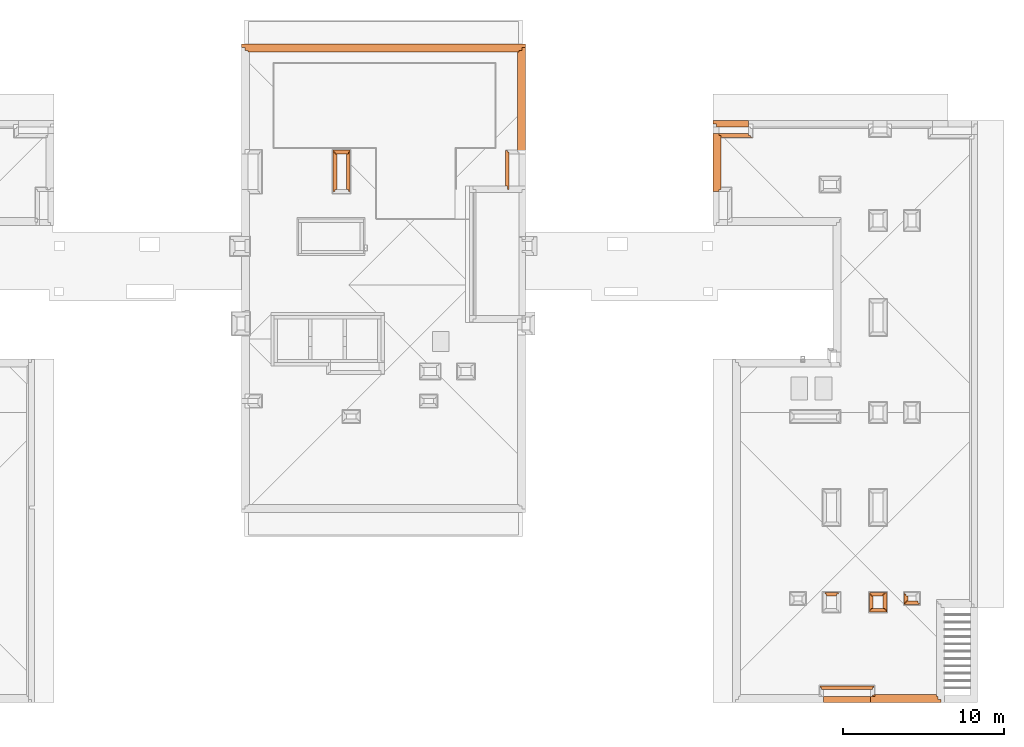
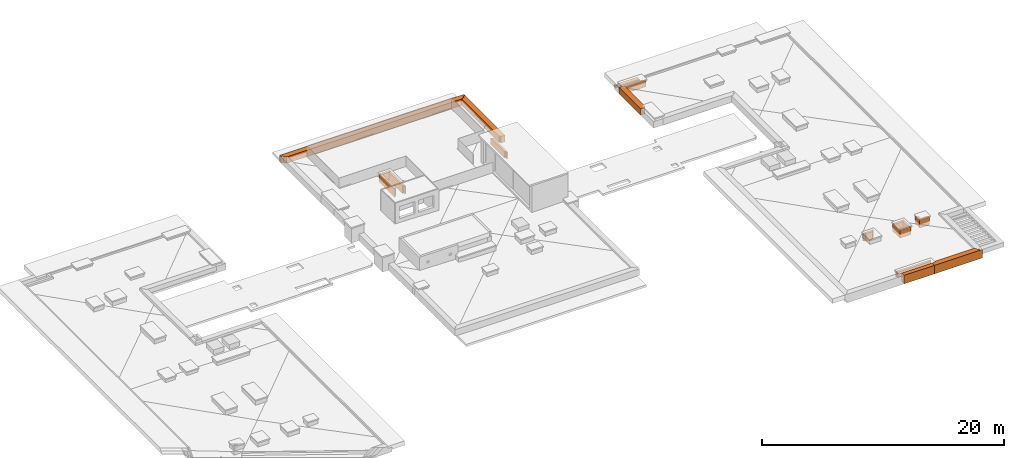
# One storey, part 13 of 16: 19 proxies.
"""IFC2X3 building model written with IfcOpenShell, lengths in millimetres."""

from ifc_helpers import new_model, entity, si_unit, converted_unit, derived_unit, money_unit, direction, frame, origin_with_axes, place, context, subcontext, project, spatial, faceted_brep, material, material_list, type_object, element, save


model = new_model("IFC2X3")

# Units and contexts
model_context = context("Model", 3, precision=0.01, world=origin_with_axes(), true_north=direction((0.34421633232, 0.938890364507)))
body_context = subcontext(model_context, "Body", "Model", "MODEL_VIEW")
ifc_project = project(units=[si_unit("LENGTHUNIT", "METRE", prefix="MILLI"), si_unit("AREAUNIT", "SQUARE_METRE"), si_unit("VOLUMEUNIT", "CUBIC_METRE"), converted_unit("PLANEANGLEUNIT", "DEGREE", entity("IfcPlaneAngleMeasure", 0.0174532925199), si_unit("PLANEANGLEUNIT", "RADIAN"), dimensions=[0, 0, 0, 0, 0, 0, 0]), si_unit("SOLIDANGLEUNIT", "STERADIAN"), money_unit("USD"), converted_unit("TIMEUNIT", "Year", entity("IfcTimeMeasure", 31556926.0), si_unit("TIMEUNIT", "SECOND"), dimensions=[0, 0, 1, 0, 0, 0, 0]), si_unit("MASSUNIT", "GRAM", prefix="KILO"), si_unit("THERMODYNAMICTEMPERATUREUNIT", "DEGREE_CELSIUS"), si_unit("LUMINOUSINTENSITYUNIT", "LUMEN"), si_unit("ENERGYUNIT", "JOULE", prefix="MEGA"), derived_unit("THERMALCONDUCTANCEUNIT", [(si_unit("POWERUNIT", "WATT"), 1), (si_unit("LENGTHUNIT", "METRE"), -1), (si_unit("THERMODYNAMICTEMPERATUREUNIT", "KELVIN"), -1)]), derived_unit("SPECIFICHEATCAPACITYUNIT", [(si_unit("ENERGYUNIT", "JOULE"), 1), (si_unit("MASSUNIT", "GRAM", prefix="KILO"), -1), (si_unit("THERMODYNAMICTEMPERATUREUNIT", "KELVIN"), -1)]), derived_unit("MASSDENSITYUNIT", [(si_unit("MASSUNIT", "GRAM", prefix="KILO"), 1), (si_unit("VOLUMEUNIT", "CUBIC_METRE"), -1)])], contexts=[model_context])

# Site, building, storey
site_placement = place(None, origin_with_axes())
site = spatial("IfcSite", under=ifc_project, at=site_placement, Name="USTRONIE MORSKIE", CompositionType="ELEMENT")
building_placement = place(site_placement, origin_with_axes())
building = spatial("IfcBuilding", under=site, at=building_placement, Name="Budynek", CompositionType="ELEMENT")
storey_placement = place(building_placement, frame((0.0, 0.0, 19000.0), z_axis=(0.0, 0.0, 1.0), x_axis=(1.0, 0.0, 0.0)))
storey = spatial("IfcBuildingStorey", under=building, at=storey_placement, Name="DACH", CompositionType="ELEMENT", Elevation=19000.0)

# Proxies
ifc_material_1 = material(Name="Tynk zewnętrzny")
ifc_material_2 = material(Name="Wełna ELEW")
ifc_material_3 = material(Name="Bloczki silikatowe")
ifc_material_list_1 = material_list([ifc_material_1, ifc_material_2, ifc_material_3, ifc_material_2, ifc_material_1])
building_element_proxy_type_1 = type_object("IfcBuildingElementProxyType", Name="18 SILIKAT+20-10 500", PredefinedType="NOTDEFINED")
proxy_1_placement = place(storey_placement, frame((379217.920919, 749551.199036, -160.0), z_axis=(0.0, 0.0, 1.0), x_axis=(1.0, 0.0, 0.0)))
element("IfcBuildingElementProxy", 1, at=proxy_1_placement, inside=storey, type_object=building_element_proxy_type_1, material=ifc_material_list_1, Name="Œciana-006", context=body_context, shape_type="Brep", body=[
    faceted_brep([(17410.0, 200.0, 660.0), (17410.0, 210.0, 660.0), (-210.0, 210.0, 660.0), (-210.0, 200.0, 660.0), (17410.0, 200.0, 0.0), (17410.0, 210.0, 0.0), (-210.0, 210.0, 0.0), (-210.0, 200.0, 0.0)], [[[0, 1, 2, 3]], [[1, 0, 4, 5]], [[1, 5, 6, 2]], [[7, 3, 2, 6]], [[4, 0, 3, 7]], [[5, 4, 7, 6]]]),
    faceted_brep([(17400.0, 0.0, 660.0), (17400.0, 200.0, 660.0), (-200.0, 200.0, 660.0), (-200.0, 0.0, 660.0), (17400.0, 0.0, 0.0), (17400.0, 200.0, 0.0), (-200.0, 200.0, 0.0), (-200.0, 0.0, 0.0)], [[[0, 1, 2, 3]], [[1, 0, 4, 5]], [[1, 5, 6, 2]], [[7, 3, 2, 6]], [[4, 0, 3, 7]], [[5, 4, 7, 6]]]),
    faceted_brep([(17200.0, -180.0, 660.0), (17200.0, 0.0, 660.0), (0.0, 0.0, 660.0), (0.0, -180.0, 660.0), (17200.0, -180.0, 0.0), (17200.0, 0.0, 0.0), (0.0, 0.0, 0.0), (0.0, -180.0, 0.0)], [[[0, 1, 2, 3]], [[1, 0, 4, 5]], [[1, 5, 6, 2]], [[7, 3, 2, 6]], [[4, 0, 3, 7]], [[5, 4, 7, 6]]]),
    faceted_brep([(17020.0, -280.0, 660.0), (17020.0, -280.0, 5.0), (17020.0, -180.0, 5.0), (17020.0, -180.0, 660.0), (180.0, -280.0, 660.0), (180.0, -280.0, 5.0), (180.0, -180.0, 5.0), (180.0, -180.0, 660.0)], [[[0, 1, 2, 3]], [[4, 5, 1, 0]], [[5, 6, 2, 1]], [[3, 2, 6, 7]], [[4, 0, 3, 7]], [[7, 6, 5, 4]]]),
    faceted_brep([(16920.0, -290.0, 533.11199114), (16920.0, -279.999962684, 533.311991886), (16920.0, -280.0, 660.0), (16920.0, -290.0, 660.0), (280.0, -279.999962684, 533.311991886), (280.0, -290.0, 533.11199114), (280.0, -280.0, 660.0), (280.0, -290.0, 660.0)], [[[0, 1, 2, 3]], [[4, 1, 0, 5]], [[1, 4, 6, 2]], [[7, 3, 2, 6]], [[5, 0, 3, 7]], [[4, 5, 7, 6]]]),
])
proxy_2_placement = place(storey_placement, frame((396417.920919, 749551.199036, -160.0), z_axis=(0.0, 0.0, 1.0), x_axis=(0.0, -1.0, 0.0)))
element("IfcBuildingElementProxy", 2, at=proxy_2_placement, inside=storey, type_object=building_element_proxy_type_1, material=ifc_material_list_1, Name="Œciana-006", context=body_context, shape_type="Brep", body=[
    faceted_brep([(-200.0, 210.0, 660.0), (-200.0, 200.0, 660.0), (6609.72243682, 200.0, 660.0), (6609.72243682, 210.0, 660.0), (-200.0, 210.0, 0.0), (-200.0, 200.0, 0.0), (6609.72243682, 200.0, 0.0), (6609.72243682, 210.0, 0.0)], [[[0, 1, 2, 3]], [[1, 0, 4, 5]], [[1, 5, 6, 2]], [[7, 3, 2, 6]], [[4, 0, 3, 7]], [[5, 4, 7, 6]]]),
    faceted_brep([(0.0, 200.0, 660.0), (0.0, 0.0, 660.0), (6609.72243682, 0.0, 660.0), (6609.72243682, 200.0, 660.0), (0.0, 200.0, 0.0), (0.0, 0.0, 0.0), (6609.72243682, 0.0, 0.0), (6609.72243682, 200.0, 0.0)], [[[0, 1, 2, 3]], [[1, 0, 4, 5]], [[1, 5, 6, 2]], [[7, 3, 2, 6]], [[4, 0, 3, 7]], [[5, 4, 7, 6]]]),
    faceted_brep([(6609.72243682, 0.0, 660.0), (180.0, 0.0, 660.0), (180.0, -180.0, 660.0), (6609.72243682, -180.0, 660.0), (6609.72243682, 0.0, 0.0), (180.0, 0.0, 0.0), (180.0, -180.0, 0.0), (6609.72243682, -180.0, 0.0)], [[[0, 1, 2, 3]], [[4, 5, 1, 0]], [[6, 2, 1, 5]], [[3, 2, 6, 7]], [[7, 4, 0, 3]], [[7, 6, 5, 4]]]),
    faceted_brep([(280.0, -180.0, 660.0), (6489.72243682, -180.0, 660.0), (6489.72243682, -180.0, 5.0), (280.0, -180.0, 5.0), (280.0, -280.0, 660.0), (6489.72243682, -280.0, 660.0), (6489.72243682, -280.0, 5.0), (280.0, -280.0, 5.0)], [[[0, 1, 2, 3]], [[1, 0, 4, 5]], [[1, 5, 6, 2]], [[2, 6, 7, 3]], [[4, 0, 3, 7]], [[5, 4, 7, 6]]]),
    faceted_brep([(6389.72243682, -280.0, 453.711986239), (4260.00018456, -280.0, 453.711986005), (290.0, -280.0, 533.11199114), (290.0, -280.0, 660.0), (6389.72243682, -280.0, 660.0), (4270.00026417, -290.000079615, 453.511984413), (6389.72243682, -290.0, 453.511986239), (290.0, -290.0, 533.11199114), (290.0, -290.0, 660.0), (6389.72243682, -290.0, 660.0)], [[[0, 1, 2, 3, 4]], [[5, 1, 0, 6]], [[1, 5, 7, 2]], [[3, 2, 7, 8]], [[4, 3, 8, 9]], [[6, 0, 4, 9]], [[5, 6, 9, 8, 7]]]),
])
proxy_3_placement = place(storey_placement, frame((408467.920919, 744201.198996, -160.0), z_axis=(0.0, 0.0, 1.0), x_axis=(0.0, -1.0, 0.0)))
element("IfcBuildingElementProxy", 3, at=proxy_3_placement, inside=storey, type_object=building_element_proxy_type_1, material=ifc_material_list_1, Name="Œciana-006", context=body_context, shape_type="Brep", body=[
    faceted_brep([(3360.01951986, 290.0, 5.0), (219.999959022, 290.0, 5.0), (219.999959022, 290.0, 660.0), (3360.01951986, 290.0, 660.0), (219.999959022, 280.0, 5.0), (3360.01951986, 280.0, 5.0), (219.999959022, 280.0, 660.0), (3360.01951986, 280.0, 660.0)], [[[0, 1, 2, 3]], [[4, 1, 0, 5]], [[1, 4, 6, 2]], [[6, 7, 3, 2]], [[5, 0, 3, 7]], [[4, 5, 7, 6]]]),
    faceted_brep([(3460.01951986, 280.0, 5.0), (119.999959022, 280.0, 5.0), (119.999959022, 280.0, 660.0), (3460.01951986, 280.0, 660.0), (119.999959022, 180.0, 5.0), (3460.01951986, 180.0, 5.0), (119.999959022, 180.0, 660.0), (3460.01951986, 180.0, 660.0)], [[[0, 1, 2, 3]], [[4, 1, 0, 5]], [[1, 4, 6, 2]], [[6, 7, 3, 2]], [[5, 0, 3, 7]], [[4, 5, 7, 6]]]),
    faceted_brep([(3580.01951986, 0.0, 0.0), (0.0, 0.0, 0.0), (0.0, 180.0, 0.0), (3580.01951986, 180.0, 0.0), (3580.01951986, 0.0, 660.0), (0.0, 0.0, 660.0), (0.0, 180.0, 660.0), (3580.01951986, 180.0, 660.0)], [[[0, 1, 2, 3]], [[4, 5, 1, 0]], [[1, 5, 6, 2]], [[3, 2, 6, 7]], [[7, 4, 0, 3]], [[7, 6, 5, 4]]]),
    faceted_brep([(0.0, -200.0, 0.0), (0.0, 0.0, 0.0), (3580.01951986, 0.0, 0.0), (3580.01951986, -200.0, 0.0), (0.0, -200.0, 660.0), (0.0, 0.0, 660.0), (3580.01951986, 0.0, 660.0), (3580.01951986, -200.0, 660.0)], [[[0, 1, 2, 3]], [[4, 5, 1, 0]], [[1, 5, 6, 2]], [[7, 3, 2, 6]], [[4, 0, 3, 7]], [[5, 4, 7, 6]]]),
    faceted_brep([(0.0, -200.0, 0.0), (3580.01951986, -200.0, 0.0), (3580.01951986, -210.0, 0.0), (0.0, -210.0, 0.0), (0.0, -200.0, 660.0), (3580.01951986, -200.0, 660.0), (3580.01951986, -210.0, 660.0), (0.0, -210.0, 660.0)], [[[0, 1, 2, 3]], [[4, 5, 1, 0]], [[2, 1, 5, 6]], [[3, 2, 6, 7]], [[4, 0, 3, 7]], [[7, 6, 5, 4]]]),
])
proxy_4_placement = place(storey_placement, frame((422417.920919, 709101.199036, -360.0), z_axis=(0.0, 0.0, 1.0), x_axis=(-1.0, 0.0, 0.0)))
element("IfcBuildingElementProxy", 4, at=proxy_4_placement, inside=storey, type_object=building_element_proxy_type_1, material=ifc_material_list_1, Name="Œciana-006", context=body_context, shape_type="Brep", body=[
    faceted_brep([(-200.0, 210.0, 860.0), (-200.0, 200.0, 860.0), (4380.0, 200.0, 860.0), (4380.0, 210.0, 860.0), (-200.0, 210.0, 0.0), (-200.0, 200.0, 0.0), (4380.0, 200.0, 0.0), (4380.0, 210.0, 0.0)], [[[0, 1, 2, 3]], [[1, 0, 4, 5]], [[1, 5, 6, 2]], [[7, 3, 2, 6]], [[4, 0, 3, 7]], [[5, 4, 7, 6]]]),
    faceted_brep([(0.0, 200.0, 860.0), (0.0, 0.0, 860.0), (4380.0, 0.0, 860.0), (4380.0, 200.0, 860.0), (0.0, 200.0, 0.0), (0.0, 0.0, 0.0), (4380.0, 0.0, 0.0), (4380.0, 200.0, 0.0)], [[[0, 1, 2, 3]], [[1, 0, 4, 5]], [[1, 5, 6, 2]], [[7, 3, 2, 6]], [[4, 0, 3, 7]], [[5, 4, 7, 6]]]),
    faceted_brep([(180.0, 0.0, 200.0), (180.0, -180.0, 200.0), (180.0, -180.0, 860.0), (180.0, 0.0, 860.0), (4380.0, -180.0, 200.0), (4380.0, 0.0, 200.0), (4380.0, -180.0, 860.0), (4380.0, 0.0, 860.0)], [[[0, 1, 2, 3]], [[4, 1, 0, 5]], [[1, 4, 6, 2]], [[7, 3, 2, 6]], [[5, 0, 3, 7]], [[4, 5, 7, 6]]]),
    faceted_brep([(280.0, -180.0, 205.0), (280.0, -280.0, 205.0), (280.0, -280.0, 860.0), (280.0, -180.0, 860.0), (4260.0, -280.0, 205.0), (4260.0, -180.0, 205.0), (4260.0, -280.0, 740.0), (4100.00158398, -280.0, 740.0), (4100.00158398, -280.0, 860.0), (4100.00158398, -180.0, 860.0), (4100.00158398, -180.0, 740.0), (4260.0, -180.0, 740.0)], [[[0, 1, 2, 3]], [[4, 1, 0, 5]], [[1, 4, 6, 7, 8, 2]], [[8, 9, 3, 2]], [[5, 0, 3, 9, 10, 11]], [[4, 5, 11, 6]], [[7, 6, 11, 10]], [[9, 8, 7, 10]]]),
    faceted_brep([(290.0, -280.0, 205.0), (290.0, -290.0, 205.0), (290.0, -290.0, 860.0), (290.0, -280.0, 860.0), (4160.0, -290.0, 205.0), (4160.0, -280.0, 205.0), (4160.0, -290.0, 740.0), (4100.00158398, -290.0, 740.0), (4100.00158398, -290.0, 860.0), (4100.00158398, -280.0, 860.0), (4100.00158398, -280.0, 740.0), (4160.0, -280.0, 740.0)], [[[0, 1, 2, 3]], [[4, 1, 0, 5]], [[1, 4, 6, 7, 8, 2]], [[8, 9, 3, 2]], [[5, 0, 3, 9, 10, 11]], [[4, 5, 11, 6]], [[7, 6, 11, 10]], [[9, 8, 7, 10]]]),
])
ifc_material_list_2 = material_list([ifc_material_1, ifc_material_2, ifc_material_3])
building_element_proxy_type_2 = type_object("IfcBuildingElementProxyType", Name="12+10 kominy 230", PredefinedType="NOTDEFINED")
proxy_5_placement = place(storey_placement, frame((385517.924326, 742941.199021, -159.999998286), z_axis=(0.0, 0.0, 1.0), x_axis=(0.0, -1.0, 0.0)))
element("IfcBuildingElementProxy", 5, at=proxy_5_placement, inside=storey, type_object=building_element_proxy_type_2, material=ifc_material_list_2, Name="Œciana-006", context=body_context, shape_type="Brep", body=[
    faceted_brep([(-220.0, 230.0, 4.99999828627), (-220.0, 230.0, 800.0), (2439.99998521, 230.0, 800.0), (2439.99998521, 230.0, 4.99999828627), (-220.0, 220.0, 4.99999828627), (-220.0, 220.0, 800.0), (2439.99998521, 220.0, 800.0), (2439.99998521, 220.0, 4.99999828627)], [[[0, 1, 2, 3]], [[0, 4, 5, 1]], [[6, 2, 1, 5]], [[7, 3, 2, 6]], [[7, 4, 0, 3]], [[7, 6, 5, 4]]]),
    faceted_brep([(-120.0, 220.0, 4.99999828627), (-120.0, 220.0, 800.0), (2339.99998521, 220.0, 800.0), (2339.99998521, 220.0, 4.99999828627), (-120.0, 120.0, 4.99999828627), (-120.0, 120.0, 800.0), (2339.99998521, 120.0, 800.0), (2339.99998521, 120.0, 4.99999828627)], [[[0, 1, 2, 3]], [[0, 4, 5, 1]], [[6, 2, 1, 5]], [[7, 3, 2, 6]], [[7, 4, 0, 3]], [[7, 6, 5, 4]]]),
    faceted_brep([(2219.99998521, 0.0, 800.0), (2219.99998521, 120.0, 800.0), (0.0, 120.0, 800.0), (0.0, 0.0, 800.0), (2219.99998521, 0.0, 0.0), (2219.99998521, 120.0, 0.0), (0.0, 120.0, 0.0), (0.0, 0.0, 0.0)], [[[0, 1, 2, 3]], [[1, 0, 4, 5]], [[1, 5, 6, 2]], [[7, 3, 2, 6]], [[4, 0, 3, 7]], [[5, 4, 7, 6]]]),
])
ifc_material_list_3 = material_list([ifc_material_3, ifc_material_2, ifc_material_1])
proxy_6_placement = place(storey_placement, frame((418037.920919, 709701.199036, -160.0), z_axis=(0.0, 0.0, 1.0), x_axis=(-1.0, 0.0, 0.0)))
element("IfcBuildingElementProxy", 6, at=proxy_6_placement, inside=storey, type_object=building_element_proxy_type_2, material=ifc_material_list_3, Name="Œciana-006", context=body_context, shape_type="Brep", body=[
    faceted_brep([(3039.99841602, 0.0, 0.0), (3039.99841602, -120.0, 0.0), (-120.0, -120.0, 0.0), (-120.0, 0.0, 0.0), (3039.99841602, 0.0, 540.0), (3039.99841602, -120.0, 540.0), (-120.0, -120.0, 540.0), (-120.0, 0.0, 540.0)], [[[0, 1, 2, 3]], [[1, 0, 4, 5]], [[1, 5, 6, 2]], [[7, 3, 2, 6]], [[4, 0, 3, 7]], [[5, 4, 7, 6]]]),
    faceted_brep([(-220.0, -120.0, 5.0), (-220.0, -220.0, 5.0), (-220.0, -220.0, 540.0), (-220.0, -120.0, 540.0), (3139.99841602, -220.0, 5.0), (3139.99841602, -120.0, 5.0), (3139.99841602, -220.0, 540.0), (3139.99841602, -120.0, 540.0)], [[[0, 1, 2, 3]], [[4, 1, 0, 5]], [[1, 4, 6, 2]], [[6, 7, 3, 2]], [[5, 0, 3, 7]], [[4, 5, 7, 6]]]),
    faceted_brep([(-230.0, -220.0, 5.0), (-230.0, -230.0, 5.0), (-230.0, -230.0, 540.0), (-230.0, -220.0, 540.0), (3149.99841602, -230.0, 5.0), (3149.99841602, -220.0, 5.0), (3149.99841602, -230.0, 540.0), (3149.99841602, -220.0, 540.0)], [[[0, 1, 2, 3]], [[4, 1, 0, 5]], [[1, 4, 6, 2]], [[6, 7, 3, 2]], [[5, 0, 3, 7]], [[4, 5, 7, 6]]]),
])
proxy_7_placement = place(storey_placement, frame((395617.909817, 740641.199036, -159.999998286), z_axis=(0.0, 0.0, 1.0), x_axis=(0.0, 1.0, 0.0)))
element("IfcBuildingElementProxy", 7, at=proxy_7_placement, inside=storey, type_object=building_element_proxy_type_2, material=ifc_material_list_2, Name="Œciana-006", context=body_context, shape_type="Brep", body=[
    faceted_brep([(979.990623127, 220.0, 4.99999828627), (1850.00090117, 220.0, 4.99999828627), (2530.27756318, 220.0, 4.99999828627), (2530.27756318, 220.0, 659.999998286), (310.0, 220.0, 659.999998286), (310.0, 220.0, 4.99999828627), (1850.00090117, 230.0, 4.99999828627), (979.990623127, 230.0, 4.99999828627), (2530.27756318, 230.0, 4.99999828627), (2530.27756318, 230.0, 659.999998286), (310.0, 230.0, 659.999998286), (310.0, 230.0, 4.99999828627)], [[[0, 1, 2, 3, 4, 5]], [[6, 1, 0, 7]], [[1, 6, 8, 2]], [[2, 8, 9, 3]], [[3, 9, 10, 4]], [[11, 5, 4, 10]], [[7, 0, 5, 11]], [[6, 7, 11, 10, 9, 8]]]),
    faceted_brep([(2520.27756318, 120.0, 4.99999828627), (2520.27756318, 120.0, 659.999998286), (300.0, 120.0, 659.999998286), (300.0, 120.0, 4.99999828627), (2520.27756318, 220.0, 4.99999828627), (2520.27756318, 220.0, 659.999998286), (300.0, 220.0, 659.999998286), (300.0, 220.0, 4.99999828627)], [[[0, 1, 2, 3]], [[0, 4, 5, 1]], [[1, 5, 6, 2]], [[7, 3, 2, 6]], [[7, 4, 0, 3]], [[7, 6, 5, 4]]]),
    faceted_brep([(2420.27756318, 0.0, 659.999998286), (2420.27756318, 120.0, 659.999998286), (100.0, 120.0, 659.999998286), (100.0, 0.0, 659.999998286), (2420.27756318, 0.0, 0.0), (2420.27756318, 120.0, 0.0), (100.0, 120.0, 0.0), (100.0, 0.0, 0.0)], [[[0, 1, 2, 3]], [[1, 0, 4, 5]], [[1, 5, 6, 2]], [[7, 3, 2, 6]], [[4, 0, 3, 7]], [[5, 4, 7, 6]]]),
])
proxy_8_placement = place(storey_placement, frame((418817.920919, 714751.197058, -160.0), z_axis=(0.0, 0.0, 1.0), x_axis=(0.0, 1.0, 0.0)))
element("IfcBuildingElementProxy", 8, at=proxy_8_placement, inside=storey, type_object=building_element_proxy_type_2, material=ifc_material_list_3, Name="Œciana-006", context=body_context, shape_type="Brep", body=[
    faceted_brep([(870.00242246, 0.0, 0.0), (870.00242246, -120.0, 0.0), (0.0, -120.0, 0.0), (0.0, 0.0, 0.0), (870.00242246, 0.0, 800.000001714), (870.00242246, -120.0, 800.000001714), (0.0, -120.0, 800.000001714), (0.0, 0.0, 800.000001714)], [[[0, 1, 2, 3]], [[1, 0, 4, 5]], [[1, 5, 6, 2]], [[7, 3, 2, 6]], [[4, 0, 3, 7]], [[5, 4, 7, 6]]]),
    faceted_brep([(-120.0, -220.0, 5.0), (970.00242246, -220.0, 5.0), (970.00242246, -220.0, 800.000001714), (-120.0, -220.0, 800.000001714), (970.00242246, -120.0, 5.0), (-120.0, -120.0, 5.0), (970.00242246, -120.0, 800.000001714), (-120.0, -120.0, 800.000001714)], [[[0, 1, 2, 3]], [[4, 1, 0, 5]], [[1, 4, 6, 2]], [[2, 6, 7, 3]], [[5, 0, 3, 7]], [[4, 5, 7, 6]]]),
    faceted_brep([(-220.0, -230.0, 5.0), (980.00242246, -230.0, 5.0), (980.00242246, -230.0, 800.000001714), (-220.0, -230.0, 800.000001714), (980.00242246, -220.0, 5.0), (-220.0, -220.0, 5.0), (980.00242246, -220.0, 800.000001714), (-220.0, -220.0, 800.000001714)], [[[0, 1, 2, 3]], [[4, 1, 0, 5]], [[1, 4, 6, 2]], [[2, 6, 7, 3]], [[5, 0, 3, 7]], [[4, 5, 7, 6]]]),
])
proxy_9_placement = place(storey_placement, frame((420357.920919, 715501.199024, -160.0), z_axis=(0.0, 0.0, 1.0), x_axis=(0.0, -1.0, 0.0)))
element("IfcBuildingElementProxy", 9, at=proxy_9_placement, inside=storey, type_object=building_element_proxy_type_2, material=ifc_material_list_3, Name="Œciana-006", context=body_context, shape_type="Brep", body=[
    faceted_brep([(300.006452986, 0.0, 0.0), (300.006452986, -120.0, 0.0), (0.0, -120.0, 0.0), (0.0, 0.0, 0.0), (300.006452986, 0.0, 800.000001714), (300.006452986, -120.0, 800.000001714), (0.0, -120.0, 800.000001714), (0.0, 0.0, 800.000001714)], [[[0, 1, 2, 3]], [[1, 0, 4, 5]], [[1, 5, 6, 2]], [[7, 3, 2, 6]], [[4, 0, 3, 7]], [[5, 4, 7, 6]]]),
    faceted_brep([(420.006452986, -120.0, 5.0), (-120.0, -120.0, 5.0), (-120.0, -120.0, 800.000001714), (420.006452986, -120.0, 800.000001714), (-120.0, -220.0, 5.0), (420.006452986, -220.0, 5.0), (-120.0, -220.0, 800.000001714), (420.006452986, -220.0, 800.000001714)], [[[0, 1, 2, 3]], [[4, 1, 0, 5]], [[1, 4, 6, 2]], [[7, 3, 2, 6]], [[5, 0, 3, 7]], [[4, 5, 7, 6]]]),
    faceted_brep([(520.006452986, -220.0, 5.0), (-220.0, -220.0, 5.0), (-220.0, -220.0, 800.000001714), (520.006452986, -220.0, 800.000001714), (-220.0, -230.0, 5.0), (520.006452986, -230.0, 5.0), (-220.0, -230.0, 800.000001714), (520.006452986, -230.0, 800.000001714)], [[[0, 1, 2, 3]], [[4, 1, 0, 5]], [[1, 4, 6, 2]], [[7, 3, 2, 6]], [[5, 0, 3, 7]], [[4, 5, 7, 6]]]),
])
proxy_10_placement = place(storey_placement, frame((384917.920919, 742941.199021, -159.999998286), z_axis=(0.0, 0.0, 1.0), x_axis=(0.0, -1.0, 0.0)))
element("IfcBuildingElementProxy", 10, at=proxy_10_placement, inside=storey, type_object=building_element_proxy_type_2, material=ifc_material_list_3, Name="Œciana-006", context=body_context, shape_type="Brep", body=[
    faceted_brep([(2219.99998521, 0.0, 0.0), (2219.99998521, -120.0, 0.0), (0.0, -120.0, 0.0), (0.0, 0.0, 0.0), (2219.99998521, 0.0, 800.0), (2219.99998521, -120.0, 800.0), (0.0, -120.0, 800.0), (0.0, 0.0, 800.0)], [[[0, 1, 2, 3]], [[1, 0, 4, 5]], [[1, 5, 6, 2]], [[7, 3, 2, 6]], [[4, 0, 3, 7]], [[5, 4, 7, 6]]]),
    faceted_brep([(-120.0, -120.0, 4.99999828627), (-120.0, -120.0, 800.0), (2339.99998521, -120.0, 800.0), (2339.99998521, -120.0, 4.99999828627), (-120.0, -220.0, 4.99999828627), (-120.0, -220.0, 800.0), (2339.99998521, -220.0, 800.0), (2339.99998521, -220.0, 4.99999828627)], [[[0, 1, 2, 3]], [[0, 4, 5, 1]], [[6, 2, 1, 5]], [[7, 3, 2, 6]], [[7, 4, 0, 3]], [[7, 6, 5, 4]]]),
    faceted_brep([(-220.0, -220.0, 4.99999828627), (-220.0, -220.0, 800.0), (2439.99998521, -220.0, 800.0), (2439.99998521, -220.0, 4.99999828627), (-220.0, -230.0, 4.99999828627), (-220.0, -230.0, 800.0), (2439.99998521, -230.0, 800.0), (2439.99998521, -230.0, 4.99999828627)], [[[0, 1, 2, 3]], [[0, 4, 5, 1]], [[6, 2, 1, 5]], [[7, 3, 2, 6]], [[7, 4, 0, 3]], [[7, 6, 5, 4]]]),
])
proxy_11_placement = place(storey_placement, frame((418197.920919, 714751.197058, -160.0), z_axis=(0.0, 0.0, 1.0), x_axis=(1.0, 0.0, 0.0)))
element("IfcBuildingElementProxy", 11, at=proxy_11_placement, inside=storey, type_object=building_element_proxy_type_2, material=ifc_material_list_3, Name="Œciana-006", context=body_context, shape_type="Brep", body=[
    faceted_brep([(740.0, 0.0, 0.0), (740.0, -120.0, 0.0), (-120.0, -120.0, 0.0), (-120.0, 0.0, 0.0), (740.0, 0.0, 800.000001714), (740.0, -120.0, 800.000001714), (-120.0, -120.0, 800.000001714), (-120.0, 0.0, 800.000001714)], [[[0, 1, 2, 3]], [[1, 0, 4, 5]], [[1, 5, 6, 2]], [[7, 3, 2, 6]], [[4, 0, 3, 7]], [[5, 4, 7, 6]]]),
    faceted_brep([(840.0, -220.0, 5.0), (840.0, -120.0, 5.0), (840.0, -120.0, 800.000001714), (840.0, -220.0, 800.000001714), (-220.0, -120.0, 5.0), (-220.0, -220.0, 5.0), (-220.0, -120.0, 800.000001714), (-220.0, -220.0, 800.000001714)], [[[0, 1, 2, 3]], [[4, 1, 0, 5]], [[1, 4, 6, 2]], [[3, 2, 6, 7]], [[5, 0, 3, 7]], [[4, 5, 7, 6]]]),
    faceted_brep([(850.0, -230.0, 5.0), (850.0, -220.0, 5.0), (850.0, -220.0, 800.000001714), (850.0, -230.0, 800.000001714), (-230.0, -220.0, 5.0), (-230.0, -230.0, 5.0), (-230.0, -220.0, 800.000001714), (-230.0, -230.0, 800.000001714)], [[[0, 1, 2, 3]], [[4, 1, 0, 5]], [[1, 4, 6, 2]], [[3, 2, 6, 7]], [[5, 0, 3, 7]], [[4, 5, 7, 6]]]),
])
proxy_12_placement = place(storey_placement, frame((410477.940098, 744201.199037, -160.0), z_axis=(0.0, 0.0, 1.0), x_axis=(-1.0, 0.0, 0.0)))
element("IfcBuildingElementProxy", 12, at=proxy_12_placement, inside=storey, type_object=building_element_proxy_type_2, material=ifc_material_list_2, Name="Œciana-006", context=body_context, shape_type="Brep", body=[
    faceted_brep([(-220.000004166, 230.0, 5.0), (-220.000003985, 220.0, 5.0), (-220.000003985, 220.0, 660.0), (-220.000004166, 230.0, 660.0), (1720.01917869, 220.0, 5.0), (1720.01917869, 230.0, 5.0), (1720.01917869, 220.0, 660.0), (1720.01917869, 230.0, 660.0)], [[[0, 1, 2, 3]], [[4, 1, 0, 5]], [[1, 4, 6, 2]], [[2, 6, 7, 3]], [[5, 0, 3, 7]], [[4, 5, 7, 6]]]),
    faceted_brep([(-120.000003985, 220.0, 5.0), (-120.000002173, 120.0, 5.0), (-120.000002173, 120.0, 660.0), (-120.000003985, 220.0, 660.0), (1730.01917869, 120.0, 5.0), (1730.01917869, 220.0, 5.0), (1730.01917869, 120.0, 660.0), (1730.01917869, 220.0, 660.0)], [[[0, 1, 2, 3]], [[4, 1, 0, 5]], [[1, 4, 6, 2]], [[2, 6, 7, 3]], [[5, 0, 3, 7]], [[4, 5, 7, 6]]]),
    faceted_brep([(0.0, 0.0, 0.0), (1830.01917869, 4.09780795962e-05, 0.0), (1830.01917869, 4.09780795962e-05, 660.0), (0.0, 0.0, 660.0), (-2.17340812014e-06, 120.0, 0.0), (1830.01917869, 120.0, 0.0), (1830.01917869, 120.0, 660.0), (-2.17340812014e-06, 120.0, 660.0)], [[[0, 1, 2, 3]], [[4, 5, 1, 0]], [[5, 6, 2, 1]], [[3, 2, 6, 7]], [[4, 0, 3, 7]], [[7, 6, 5, 4]]]),
])
proxy_13_placement = place(storey_placement, frame((418817.920919, 715501.199481, -160.0), z_axis=(0.0, 0.0, 1.0), x_axis=(-1.0, 0.0, 0.0)))
element("IfcBuildingElementProxy", 13, at=proxy_13_placement, inside=storey, type_object=building_element_proxy_type_2, material=ifc_material_list_3, Name="Œciana-006", context=body_context, shape_type="Brep", body=[
    faceted_brep([(740.0, 0.0, 0.0), (740.0, -120.0, 0.0), (0.0, -120.0, 0.0), (0.0, 0.0, 0.0), (740.0, 0.0, 800.000001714), (740.0, -120.0, 800.000001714), (0.0, -120.0, 800.000001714), (0.0, 0.0, 800.000001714)], [[[0, 1, 2, 3]], [[1, 0, 4, 5]], [[1, 5, 6, 2]], [[7, 3, 2, 6]], [[4, 0, 3, 7]], [[5, 4, 7, 6]]]),
    faceted_brep([(-120.0, -120.0, 5.0), (-120.0, -220.0, 5.0), (-120.0, -220.0, 800.000001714), (-120.0, -120.0, 800.000001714), (840.0, -220.0, 5.0), (840.0, -120.0, 5.0), (840.0, -220.0, 800.000001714), (840.0, -120.0, 800.000001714)], [[[0, 1, 2, 3]], [[4, 1, 0, 5]], [[1, 4, 6, 2]], [[6, 7, 3, 2]], [[5, 0, 3, 7]], [[4, 5, 7, 6]]]),
    faceted_brep([(-220.0, -220.0, 5.0), (-220.0, -230.0, 5.0), (-220.0, -230.0, 800.000001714), (-220.0, -220.0, 800.000001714), (850.0, -230.0, 5.0), (850.0, -220.0, 5.0), (850.0, -230.0, 800.000001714), (850.0, -220.0, 800.000001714)], [[[0, 1, 2, 3]], [[4, 1, 0, 5]], [[1, 4, 6, 2]], [[6, 7, 3, 2]], [[5, 0, 3, 7]], [[4, 5, 7, 6]]]),
])
proxy_14_placement = place(storey_placement, frame((385517.924326, 742941.199021, -159.999998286), z_axis=(0.0, 0.0, 1.0), x_axis=(-1.0, 0.0, 0.0)))
element("IfcBuildingElementProxy", 14, at=proxy_14_placement, inside=storey, type_object=building_element_proxy_type_2, material=ifc_material_list_3, Name="Œciana-006", context=body_context, shape_type="Brep", body=[
    faceted_brep([(720.003407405, 0.0, 0.0), (720.003407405, -120.0, 0.0), (-120.0, -120.0, 0.0), (-120.0, 0.0, 0.0), (720.003407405, 0.0, 800.0), (720.003407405, -120.0, 800.0), (-120.0, -120.0, 800.0), (-120.0, 0.0, 800.0)], [[[0, 1, 2, 3]], [[1, 0, 4, 5]], [[1, 5, 6, 2]], [[7, 3, 2, 6]], [[4, 0, 3, 7]], [[5, 4, 7, 6]]]),
    faceted_brep([(-220.0, -120.0, 4.99999828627), (-220.0, -220.0, 4.99999828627), (-220.0, -220.0, 800.0), (-220.0, -120.0, 800.0), (820.003407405, -220.0, 4.99999828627), (820.003407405, -120.0, 4.99999828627), (820.003407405, -220.0, 800.0), (820.003407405, -120.0, 800.0)], [[[0, 1, 2, 3]], [[4, 1, 0, 5]], [[1, 4, 6, 2]], [[6, 7, 3, 2]], [[5, 0, 3, 7]], [[4, 5, 7, 6]]]),
    faceted_brep([(-230.0, -220.0, 4.99999828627), (-230.0, -230.0, 4.99999828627), (-230.0, -230.0, 800.0), (-230.0, -220.0, 800.0), (830.003407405, -230.0, 4.99999828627), (830.003407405, -220.0, 4.99999828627), (830.003407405, -230.0, 800.0), (830.003407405, -220.0, 800.0)], [[[0, 1, 2, 3]], [[4, 1, 0, 5]], [[1, 4, 6, 2]], [[6, 7, 3, 2]], [[5, 0, 3, 7]], [[4, 5, 7, 6]]]),
])
proxy_15_placement = place(storey_placement, frame((418197.920919, 715501.199481, -160.0), z_axis=(0.0, 0.0, 1.0), x_axis=(0.0, -1.0, 0.0)))
element("IfcBuildingElementProxy", 15, at=proxy_15_placement, inside=storey, type_object=building_element_proxy_type_2, material=ifc_material_list_3, Name="Œciana-006", context=body_context, shape_type="Brep", body=[
    faceted_brep([(750.00242246, 0.0, 0.0), (750.00242246, -120.0, 0.0), (0.0, -120.0, 0.0), (0.0, 0.0, 0.0), (750.00242246, 0.0, 800.000001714), (750.00242246, -120.0, 800.000001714), (0.0, -120.0, 800.000001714), (0.0, 0.0, 800.000001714)], [[[0, 1, 2, 3]], [[1, 0, 4, 5]], [[1, 5, 6, 2]], [[7, 3, 2, 6]], [[4, 0, 3, 7]], [[5, 4, 7, 6]]]),
    faceted_brep([(870.00242246, -120.0, 5.0), (-120.0, -120.0, 5.0), (-120.0, -120.0, 800.000001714), (870.00242246, -120.0, 800.000001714), (-120.0, -220.0, 5.0), (870.00242246, -220.0, 5.0), (-120.0, -220.0, 800.000001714), (870.00242246, -220.0, 800.000001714)], [[[0, 1, 2, 3]], [[4, 1, 0, 5]], [[1, 4, 6, 2]], [[7, 3, 2, 6]], [[5, 0, 3, 7]], [[4, 5, 7, 6]]]),
    faceted_brep([(970.00242246, -220.0, 5.0), (-220.0, -220.0, 5.0), (-220.0, -220.0, 800.000001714), (970.00242246, -220.0, 800.000001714), (-220.0, -230.0, 5.0), (970.00242246, -230.0, 5.0), (-220.0, -230.0, 800.000001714), (970.00242246, -230.0, 800.000001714)], [[[0, 1, 2, 3]], [[4, 1, 0, 5]], [[1, 4, 6, 2]], [[7, 3, 2, 6]], [[5, 0, 3, 7]], [[4, 5, 7, 6]]]),
])
proxy_16_placement = place(storey_placement, frame((420357.920919, 715201.192571, -160.0), z_axis=(0.0, 0.0, 1.0), x_axis=(1.0, 0.0, 0.0)))
element("IfcBuildingElementProxy", 16, at=proxy_16_placement, inside=storey, type_object=building_element_proxy_type_2, material=ifc_material_list_3, Name="Œciana-006", context=body_context, shape_type="Brep", body=[
    faceted_brep([(619.998416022, 0.0, 0.0), (619.998416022, -120.0, 0.0), (-120.0, -120.0, 0.0), (-120.0, 0.0, 0.0), (619.998416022, 0.0, 800.000001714), (619.998416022, -120.0, 800.000001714), (-120.0, -120.0, 800.000001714), (-120.0, 0.0, 800.000001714)], [[[0, 1, 2, 3]], [[1, 0, 4, 5]], [[1, 5, 6, 2]], [[7, 3, 2, 6]], [[4, 0, 3, 7]], [[5, 4, 7, 6]]]),
    faceted_brep([(719.998416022, -220.0, 5.0), (719.998416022, -120.0, 5.0), (719.998416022, -120.0, 800.000001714), (719.998416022, -220.0, 800.000001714), (-220.0, -120.0, 5.0), (-220.0, -220.0, 5.0), (-220.0, -120.0, 800.000001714), (-220.0, -220.0, 800.000001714)], [[[0, 1, 2, 3]], [[4, 1, 0, 5]], [[1, 4, 6, 2]], [[3, 2, 6, 7]], [[5, 0, 3, 7]], [[4, 5, 7, 6]]]),
    faceted_brep([(729.998416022, -230.0, 5.0), (729.998416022, -220.0, 5.0), (729.998416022, -220.0, 800.000001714), (729.998416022, -230.0, 800.000001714), (-230.0, -220.0, 5.0), (-230.0, -230.0, 5.0), (-230.0, -220.0, 800.000001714), (-230.0, -230.0, 800.000001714)], [[[0, 1, 2, 3]], [[4, 1, 0, 5]], [[1, 4, 6, 2]], [[3, 2, 6, 7]], [[5, 0, 3, 7]], [[4, 5, 7, 6]]]),
])
proxy_17_placement = place(storey_placement, frame((415317.920018, 715501.199481, -160.0), z_axis=(0.0, 0.0, 1.0), x_axis=(1.0, 0.0, 0.0)))
element("IfcBuildingElementProxy", 17, at=proxy_17_placement, inside=storey, type_object=building_element_proxy_type_2, material=ifc_material_list_2, Name="Œciana-006", context=body_context, shape_type="Brep", body=[
    faceted_brep([(839.999317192, 220.0, 5.0), (839.999317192, 230.0, 5.0), (839.999317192, 230.0, 800.000001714), (839.999317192, 220.0, 800.000001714), (-219.998416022, 230.0, 5.0), (-219.998416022, 220.0, 5.0), (-219.998416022, 230.0, 800.000001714), (-219.998416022, 220.0, 800.000001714)], [[[0, 1, 2, 3]], [[4, 1, 0, 5]], [[1, 4, 6, 2]], [[3, 2, 6, 7]], [[5, 0, 3, 7]], [[4, 5, 7, 6]]]),
    faceted_brep([(739.999317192, 120.0, 5.0), (739.999317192, 220.0, 5.0), (739.999317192, 220.0, 800.000001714), (739.999317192, 120.0, 800.000001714), (-119.998416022, 220.0, 5.0), (-119.998416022, 120.0, 5.0), (-119.998416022, 220.0, 800.000001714), (-119.998416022, 120.0, 800.000001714)], [[[0, 1, 2, 3]], [[4, 1, 0, 5]], [[1, 4, 6, 2]], [[3, 2, 6, 7]], [[5, 0, 3, 7]], [[4, 5, 7, 6]]]),
    faceted_brep([(619.999317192, 0.0, 800.000001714), (619.999317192, 120.0, 800.000001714), (0.00158397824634, 120.0, 800.000001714), (0.00158397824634, 0.0, 800.000001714), (619.999317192, 0.0, 0.0), (619.999317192, 120.0, 0.0), (0.00158397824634, 120.0, 0.0), (0.00158397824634, 0.0, 0.0)], [[[0, 1, 2, 3]], [[1, 0, 4, 5]], [[1, 5, 6, 2]], [[7, 3, 2, 6]], [[4, 0, 3, 7]], [[5, 4, 7, 6]]]),
])
building_element_proxy_type_3 = type_object("IfcBuildingElementProxyType", Name="18 SILIKAT+20 390", PredefinedType="NOTDEFINED")
proxy_18_placement = place(storey_placement, frame((418037.920919, 709101.199036, -360.0), z_axis=(0.0, 0.0, 1.0), x_axis=(-1.0, 0.0, 0.0)))
element("IfcBuildingElementProxy", 18, at=proxy_18_placement, inside=storey, type_object=building_element_proxy_type_3, material=ifc_material_list_2, Name="Œciana-006", context=body_context, shape_type="Brep", body=[
    faceted_brep([(0.0, 200.0, 860.0), (2919.99841602, 200.0, 860.0), (2919.99841602, 210.0, 860.0), (0.0, 210.0, 860.0), (0.0, 200.0, 0.0), (2919.99841602, 200.0, 0.0), (2919.99841602, 210.0, 0.0), (0.0, 210.0, 0.0)], [[[0, 1, 2, 3]], [[4, 5, 1, 0]], [[2, 1, 5, 6]], [[3, 2, 6, 7]], [[4, 0, 3, 7]], [[7, 6, 5, 4]]]),
    faceted_brep([(0.0, 0.0, 860.0), (2919.99841602, 0.0, 860.0), (2919.99841602, 200.0, 860.0), (0.0, 200.0, 860.0), (0.0, 0.0, 0.0), (2919.99841602, 0.0, 0.0), (2919.99841602, 200.0, 0.0), (0.0, 200.0, 0.0)], [[[0, 1, 2, 3]], [[4, 5, 1, 0]], [[2, 1, 5, 6]], [[3, 2, 6, 7]], [[4, 0, 3, 7]], [[7, 6, 5, 4]]]),
    faceted_brep([(0.0, 0.0, 860.0), (0.0, -180.0, 860.0), (2919.99841602, -180.0, 860.0), (2919.99841602, 0.0, 860.0), (0.0, 0.0, 0.0), (0.0, -180.0, 0.0), (2919.99841602, -180.0, 0.0), (2919.99841602, 0.0, 0.0)], [[[0, 1, 2, 3]], [[4, 5, 1, 0]], [[1, 5, 6, 2]], [[7, 3, 2, 6]], [[4, 0, 3, 7]], [[5, 4, 7, 6]]]),
])
proxy_19_placement = place(storey_placement, frame((408467.920919, 744801.199036, -160.0), z_axis=(0.0, 0.0, 1.0), x_axis=(1.0, 0.0, 0.0)))
element("IfcBuildingElementProxy", 19, at=proxy_19_placement, inside=storey, type_object=building_element_proxy_type_3, material=ifc_material_list_2, Name="Œciana-006", context=body_context, shape_type="Brep", body=[
    faceted_brep([(-210.0, 210.0, 450.0), (2010.01916964, 210.0, 450.0), (2010.01916964, 210.0, 0.0), (310.0, 210.0, 0.0), (310.0, 210.0, 210.000001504), (-210.0, 210.0, 210.000001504), (2010.01916964, 200.0, 450.0), (-210.0, 200.0, 450.0), (2010.01916964, 200.0, 0.0), (310.0, 200.0, 0.0), (310.0, 200.0, 210.000001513), (-210.0, 200.0, 210.000001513)], [[[0, 1, 2, 3, 4, 5]], [[6, 1, 0, 7]], [[1, 6, 8, 2]], [[8, 9, 3, 2]], [[10, 4, 3, 9]], [[5, 4, 10, 11]], [[7, 0, 5, 11]], [[6, 7, 11, 10, 9, 8]]]),
    faceted_brep([(-200.0, 200.0, 450.0), (2010.01916964, 200.0, 450.0), (2010.01916964, 200.0, 0.0), (300.0, 200.0, 0.0), (300.0, 200.0, 210.000001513), (-200.0, 200.0, 210.000001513), (2010.01916964, 0.0, 450.0), (-200.0, 0.0, 450.0), (2010.01916964, 0.0, 0.0), (300.0, 0.0, 0.0), (300.0, 0.0, 210.000001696), (-200.0, 0.0, 210.000001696)], [[[0, 1, 2, 3, 4, 5]], [[6, 1, 0, 7]], [[1, 6, 8, 2]], [[8, 9, 3, 2]], [[10, 4, 3, 9]], [[5, 4, 10, 11]], [[7, 0, 5, 11]], [[6, 7, 11, 10, 9, 8]]]),
    faceted_brep([(0.0, 0.0, 450.0), (2010.01916964, 0.0, 450.0), (2010.01916964, 0.0, 0.0), (200.0, 0.0, 0.0), (200.0, 0.0, 210.000001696), (0.0, 0.0, 210.000001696), (2010.01916964, -180.0, 450.0), (0.0, -180.0, 450.0), (2010.01916964, -180.0, 0.0), (0.0, -100.0, 0.0), (200.0, -100.0, 0.0), (0.0, -180.0, 0.0), (200.0, -100.0, 210.000001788), (0.0, -100.0, 210.000001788)], [[[0, 1, 2, 3, 4, 5]], [[6, 1, 0, 7]], [[1, 6, 8, 2]], [[9, 10, 3, 2, 8, 11]], [[12, 4, 3, 10]], [[13, 5, 4, 12]], [[7, 0, 5, 13, 9, 11]], [[6, 7, 11, 8]], [[12, 10, 9, 13]]]),
])

save(model, "model.ifc")
